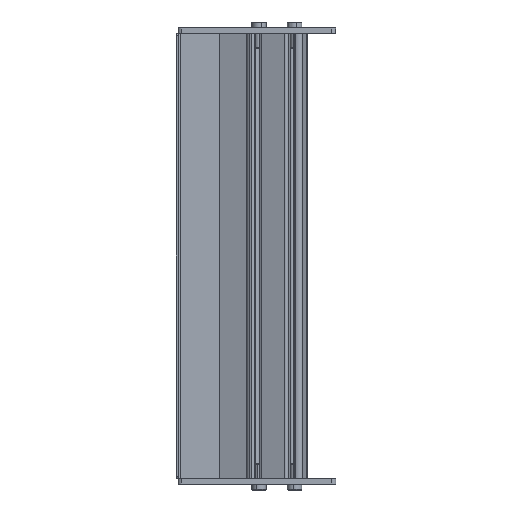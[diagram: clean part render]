
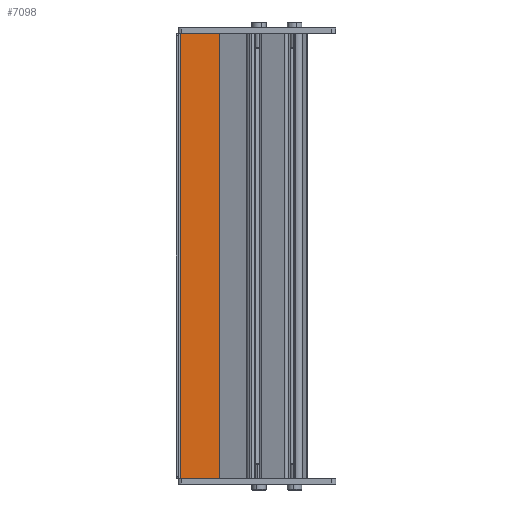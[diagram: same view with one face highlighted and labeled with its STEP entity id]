
A CAD part, left-side view. The second image highlights one B-rep face of the part: STEP entity #7098.
In plain terms, the highlighted planar face has unit normal (-1, 0, 0) as drawn and (1, 0, 0) by its records, which use the part's own axes.
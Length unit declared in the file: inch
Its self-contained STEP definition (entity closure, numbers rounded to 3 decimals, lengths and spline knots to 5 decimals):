
#6366=DIRECTION('',(0.,-1.,0.));
#6367=VECTOR('',#6366,0.88707);
#6368=CARTESIAN_POINT('',(0.048,0.904,-5.118));
#6369=LINE('',#6368,#6367);
#6538=DIRECTION('',(0.,0.,1.));
#6539=VECTOR('',#6538,10.236);
#6540=CARTESIAN_POINT('',(0.048,0.01693,-5.118));
#6541=LINE('',#6540,#6539);
#6542=DIRECTION('',(0.,-1.,0.));
#6543=VECTOR('',#6542,0.88707);
#6544=CARTESIAN_POINT('',(0.048,0.904,5.118));
#6545=LINE('',#6544,#6543);
#6546=DIRECTION('',(0.,0.,-1.));
#6547=VECTOR('',#6546,10.236);
#6548=CARTESIAN_POINT('',(0.048,0.904,5.118));
#6549=LINE('',#6548,#6547);
#6759=CARTESIAN_POINT('',(0.048,0.01693,-5.118));
#6761=VERTEX_POINT('',#6759);
#6802=CARTESIAN_POINT('',(0.048,0.904,5.118));
#6803=VERTEX_POINT('',#6802);
#6822=CARTESIAN_POINT('',(0.048,0.01693,5.118));
#6823=VERTEX_POINT('',#6822);
#6842=CARTESIAN_POINT('',(0.048,0.904,-5.118));
#6843=VERTEX_POINT('',#6842);
#7086=CARTESIAN_POINT('',(0.048,0.,5.118));
#7087=DIRECTION('',(-1.,0.,0.));
#7088=DIRECTION('',(0.,0.,1.));
#7089=AXIS2_PLACEMENT_3D('',#7086,#7087,#7088);
#7090=PLANE('',#7089);
#7091=ORIENTED_EDGE('',*,*,#6901,.T.);
#7092=ORIENTED_EDGE('',*,*,#7081,.T.);
#7093=ORIENTED_EDGE('',*,*,#6871,.F.);
#7095=ORIENTED_EDGE('',*,*,#7094,.T.);
#7096=EDGE_LOOP('',(#7091,#7092,#7093,#7095));
#7097=FACE_OUTER_BOUND('',#7096,.F.);
#6871=EDGE_CURVE('',#6803,#6823,#6545,.T.);
#6901=EDGE_CURVE('',#6843,#6761,#6369,.T.);
#7081=EDGE_CURVE('',#6761,#6823,#6541,.T.);
#7094=EDGE_CURVE('',#6803,#6843,#6549,.T.);
#7098=ADVANCED_FACE('',(#7097),#7090,.F.);
